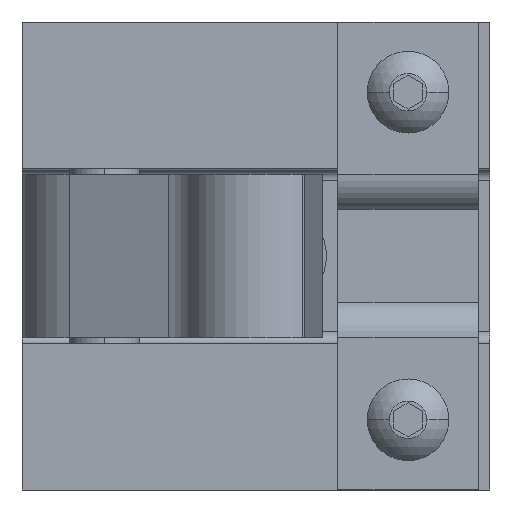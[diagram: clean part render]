
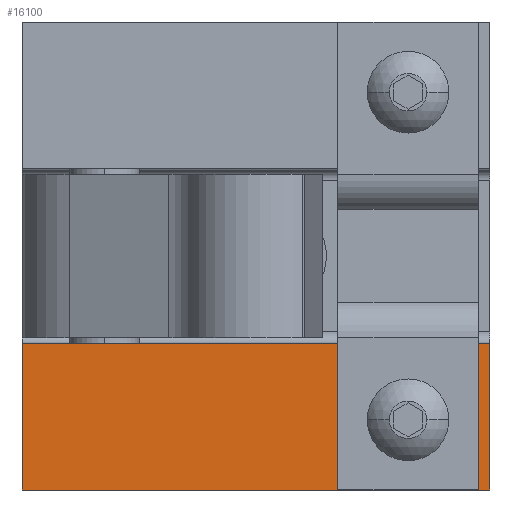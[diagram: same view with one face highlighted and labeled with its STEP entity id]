
A CAD part, left-side view. The second image highlights one B-rep face of the part: STEP entity #16100.
In plain terms, the highlighted planar face has unit normal (-1, 0, 0).
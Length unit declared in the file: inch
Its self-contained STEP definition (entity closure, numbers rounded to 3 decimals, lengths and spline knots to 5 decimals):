
#703 = EDGE_CURVE ( 'NONE', #708, #704, #21343, .T. ) ;
#704 = VERTEX_POINT ( 'NONE', #21399 ) ;
#708 = VERTEX_POINT ( 'NONE', #21398 ) ;
#796 = VERTEX_POINT ( 'NONE', #21592 ) ;
#812 = EDGE_CURVE ( 'NONE', #796, #863, #21615, .T. ) ;
#863 = VERTEX_POINT ( 'NONE', #21756 ) ;
#11124 = DIRECTION ( 'NONE',  ( 0., 0., 1. ) ) ;
#11125 = VECTOR ( 'NONE', #11124, 39.37008 ) ;
#11126 = CARTESIAN_POINT ( 'NONE',  ( 7.18951, 3.50404, -2.5 ) ) ;
#11127 = LINE ( 'NONE', #11126, #11125 ) ;
#11128 = CARTESIAN_POINT ( 'NONE',  ( 7.18951, 3.50404, -2.5 ) ) ;
#11129 = DIRECTION ( 'NONE',  ( 0., -1., 0. ) ) ;
#11130 = VECTOR ( 'NONE', #11129, 39.37008 ) ;
#11131 = CARTESIAN_POINT ( 'NONE',  ( 7.18951, 3.50404, -2.5 ) ) ;
#11132 = LINE ( 'NONE', #11131, #11130 ) ;
#11133 = CARTESIAN_POINT ( 'NONE',  ( 7.18951, 3.50404, -1.715 ) ) ;
#11134 = DIRECTION ( 'NONE',  ( 0., -1., 0. ) ) ;
#11135 = VECTOR ( 'NONE', #11134, 39.37008 ) ;
#11136 = CARTESIAN_POINT ( 'NONE',  ( 7.18951, 3.50404, -1.715 ) ) ;
#11137 = LINE ( 'NONE', #11136, #11135 ) ;
#11150 = FACE_OUTER_BOUND ( 'NONE', #16104, .T. ) ;
#11173 = DIRECTION ( 'NONE',  ( 0., 0., 1. ) ) ;
#11174 = DIRECTION ( 'NONE',  ( -1., 0., 0. ) ) ;
#11175 = CARTESIAN_POINT ( 'NONE',  ( 7.18951, 3.94154, -2.125 ) ) ;
#11176 = AXIS2_PLACEMENT_3D ( 'NONE', #11175, #11174, #11173 ) ;
#11177 = CIRCLE ( 'NONE', #11176, 0.125 ) ;
#11178 = DIRECTION ( 'NONE',  ( 0., 0., 1. ) ) ;
#11198 = DIRECTION ( 'NONE',  ( -1., 0., 0. ) ) ;
#11199 = CARTESIAN_POINT ( 'NONE',  ( 7.18951, 3.50404, -2.5 ) ) ;
#11200 = AXIS2_PLACEMENT_3D ( 'NONE', #11199, #11198, #11178 ) ;
#11201 = PLANE ( 'NONE',  #11200 ) ;
#11202 = FACE_BOUND ( 'NONE', #16101, .T. ) ;
#16076 = ORIENTED_EDGE ( 'NONE', *, *, #703, .F. ) ;
#16077 = ORIENTED_EDGE ( 'NONE', *, *, #16078, .F. ) ;
#16078 = EDGE_CURVE ( 'NONE', #863, #16079, #11137, .T. ) ;
#16079 = VERTEX_POINT ( 'NONE', #11133 ) ;
#16080 = ORIENTED_EDGE ( 'NONE', *, *, #812, .F. ) ;
#16081 = ORIENTED_EDGE ( 'NONE', *, *, #16082, .T. ) ;
#16082 = EDGE_CURVE ( 'NONE', #796, #16083, #11132, .T. ) ;
#16083 = VERTEX_POINT ( 'NONE', #11128 ) ;
#16084 = ORIENTED_EDGE ( 'NONE', *, *, #16085, .T. ) ;
#16085 = EDGE_CURVE ( 'NONE', #16083, #16079, #11127, .T. ) ;
#16100 = ADVANCED_FACE ( 'NONE', ( #11202, #11150 ), #11201, .T. ) ;
#16101 = EDGE_LOOP ( 'NONE', ( #16102, #16076 ) ) ;
#16102 = ORIENTED_EDGE ( 'NONE', *, *, #16103, .F. ) ;
#16103 = EDGE_CURVE ( 'NONE', #704, #708, #11177, .T. ) ;
#16104 = EDGE_LOOP ( 'NONE', ( #16077, #16080, #16081, #16084 ) ) ;
#21343 = CIRCLE ( 'NONE', #21403, 0.125 ) ;
#21398 = CARTESIAN_POINT ( 'NONE',  ( 7.18951, 3.94154, -2.25 ) ) ;
#21399 = CARTESIAN_POINT ( 'NONE',  ( 7.18951, 3.94154, -2. ) ) ;
#21400 = DIRECTION ( 'NONE',  ( 0., 0., 1. ) ) ;
#21401 = DIRECTION ( 'NONE',  ( -1., 0., 0. ) ) ;
#21402 = CARTESIAN_POINT ( 'NONE',  ( 7.18951, 3.94154, -2.125 ) ) ;
#21403 = AXIS2_PLACEMENT_3D ( 'NONE', #21402, #21401, #21400 ) ;
#21592 = CARTESIAN_POINT ( 'NONE',  ( 7.18951, 6.00404, -2.5 ) ) ;
#21612 = DIRECTION ( 'NONE',  ( 0., 0., 1. ) ) ;
#21613 = VECTOR ( 'NONE', #21612, 39.37008 ) ;
#21614 = CARTESIAN_POINT ( 'NONE',  ( 7.18951, 6.00404, -2.5 ) ) ;
#21615 = LINE ( 'NONE', #21614, #21613 ) ;
#21756 = CARTESIAN_POINT ( 'NONE',  ( 7.18951, 6.00404, -1.715 ) ) ;
